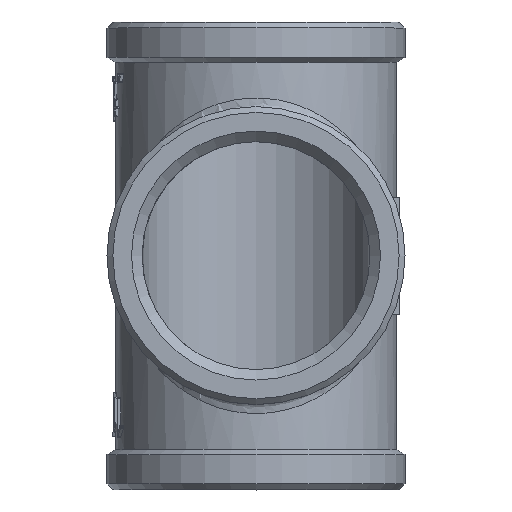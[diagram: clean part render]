
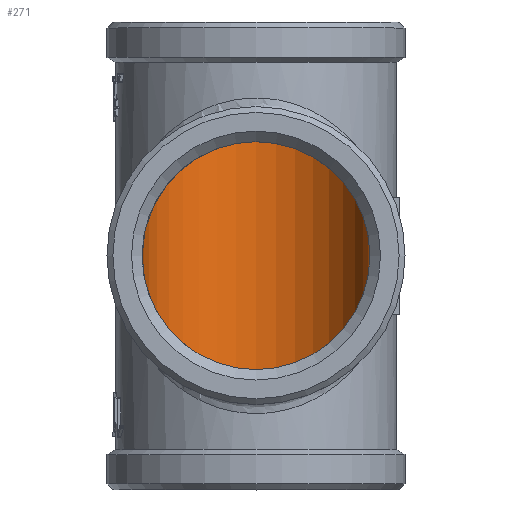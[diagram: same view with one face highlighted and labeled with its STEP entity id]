
A CAD part, top view. The second image highlights one B-rep face of the part: STEP entity #271.
In plain terms, the highlighted cylindrical face has radius 19.5 mm (diameter 39 mm), a full revolution.
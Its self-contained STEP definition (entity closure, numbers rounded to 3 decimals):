
#271=ADVANCED_FACE('',(#2327,#2329,#2331),#2333,.F.);
#2327=FACE_BOUND('',#2328,.T.);
#2328=EDGE_LOOP('',(#4761,#4762,#4763));
#2329=FACE_OUTER_BOUND('',#2330,.T.);
#2330=EDGE_LOOP('',(#4764));
#2331=FACE_OUTER_BOUND('',#2332,.T.);
#2332=EDGE_LOOP('',(#4765));
#2333=CYLINDRICAL_SURFACE('',#2334,19.5);
#2334=AXIS2_PLACEMENT_3D('',#2335,#2336,#2337);
#2335=CARTESIAN_POINT('',(0.,-41.,0.));
#2336=DIRECTION('',(0.,1.,0.));
#2337=DIRECTION('',(-1.,0.,0.));
#4761=ORIENTED_EDGE('',*,*,#6318,.T.);
#4762=ORIENTED_EDGE('',*,*,#6317,.T.);
#4763=ORIENTED_EDGE('',*,*,#6316,.T.);
#4764=ORIENTED_EDGE('',*,*,#6315,.T.);
#4765=ORIENTED_EDGE('',*,*,#6314,.T.);
#6314=EDGE_CURVE('',#7825,#7825,#7826,.F.);
#6315=EDGE_CURVE('',#7827,#7827,#7828,.T.);
#6316=EDGE_CURVE('',#7829,#7830,#7831,.T.);
#6317=EDGE_CURVE('',#7832,#7829,#7833,.F.);
#6318=EDGE_CURVE('',#7830,#7832,#7834,.F.);
#7825=VERTEX_POINT('',#13999);
#7826=CIRCLE('',#14000,19.5);
#7827=VERTEX_POINT('',#14004);
#7828=CIRCLE('',#14005,19.5);
#7829=VERTEX_POINT('',#14009);
#7830=VERTEX_POINT('',#14010);
#7831=(BOUNDED_CURVE()B_SPLINE_CURVE(3,
(#14011,#14012,#14013,#14014),
.UNSPECIFIED.,.F.,.F.)B_SPLINE_CURVE_WITH_KNOTS((4,4),
(0.,1.),
.UNSPECIFIED.)CURVE()GEOMETRIC_REPRESENTATION_ITEM()RATIONAL_B_SPLINE_CURVE((1.,
0.333,0.333,1.))REPRESENTATION_ITEM(''));
#7832=VERTEX_POINT('',#14015);
#7833=(BOUNDED_CURVE()B_SPLINE_CURVE(3,
(#14016,#14017,#14018,#14019),
.UNSPECIFIED.,.F.,.F.)B_SPLINE_CURVE_WITH_KNOTS((4,4),
(0.,1.),
.UNSPECIFIED.)CURVE()GEOMETRIC_REPRESENTATION_ITEM()RATIONAL_B_SPLINE_CURVE((1.,
0.805,0.805,1.))REPRESENTATION_ITEM(''));
#7834=(BOUNDED_CURVE()B_SPLINE_CURVE(3,
(#14020,#14021,#14022,#14023),
.UNSPECIFIED.,.F.,.F.)B_SPLINE_CURVE_WITH_KNOTS((4,4),
(0.,1.),
.UNSPECIFIED.)CURVE()GEOMETRIC_REPRESENTATION_ITEM()RATIONAL_B_SPLINE_CURVE((1.,
0.805,0.805,1.))REPRESENTATION_ITEM(''));
#13999=CARTESIAN_POINT('',(-19.5,-38.2,0.));
#14000=AXIS2_PLACEMENT_3D('',#14001,#14002,#14003);
#14001=CARTESIAN_POINT('',(0.,-38.2,0.));
#14002=DIRECTION('',(0.,1.,0.));
#14003=DIRECTION('',(-1.,0.,0.));
#14004=CARTESIAN_POINT('',(-19.5,38.2,0.));
#14005=AXIS2_PLACEMENT_3D('',#14006,#14007,#14008);
#14006=CARTESIAN_POINT('',(0.,38.2,0.));
#14007=DIRECTION('',(0.,1.,0.));
#14008=DIRECTION('',(-1.,0.,0.));
#14009=CARTESIAN_POINT('',(-19.5,0.,0.));
#14010=CARTESIAN_POINT('',(19.5,0.,0.));
#14011=CARTESIAN_POINT('',(-19.5,0.,0.));
#14012=CARTESIAN_POINT('',(-19.5,-39.,39.));
#14013=CARTESIAN_POINT('',(19.5,-39.,39.));
#14014=CARTESIAN_POINT('',(19.5,0.,0.));
#14015=CARTESIAN_POINT('',(0.,19.5,19.5));
#14016=CARTESIAN_POINT('',(-19.5,0.,0.));
#14017=CARTESIAN_POINT('',(-19.5,11.423,11.423));
#14018=CARTESIAN_POINT('',(-11.423,19.5,19.5));
#14019=CARTESIAN_POINT('',(0.,19.5,19.5));
#14020=CARTESIAN_POINT('',(0.,19.5,19.5));
#14021=CARTESIAN_POINT('',(11.423,19.5,19.5));
#14022=CARTESIAN_POINT('',(19.5,11.423,11.423));
#14023=CARTESIAN_POINT('',(19.5,0.,0.));
